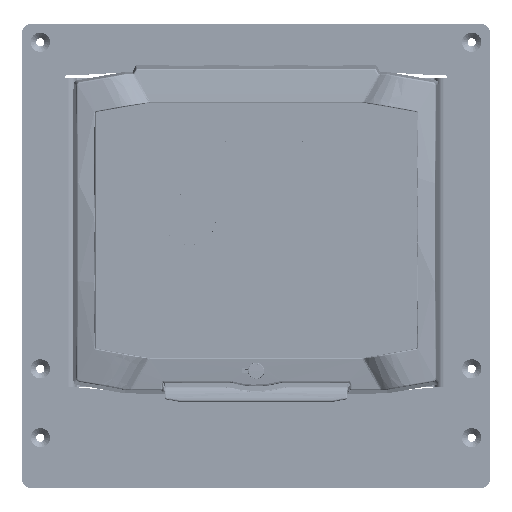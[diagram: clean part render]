
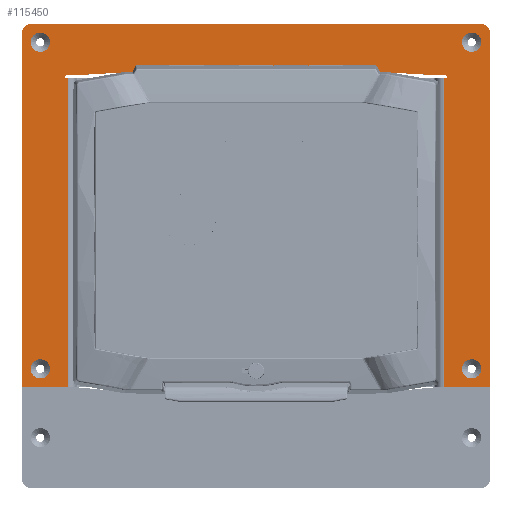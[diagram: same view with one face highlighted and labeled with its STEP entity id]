
A CAD part, top view. The second image highlights one B-rep face of the part: STEP entity #115450.
In plain terms, the highlighted planar face has unit normal (0, 0, 1).
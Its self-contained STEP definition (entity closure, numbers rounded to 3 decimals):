
#7805=FACE_BOUND('',#19703,.T.);
#7806=FACE_BOUND('',#19704,.T.);
#7807=FACE_BOUND('',#19705,.T.);
#7808=FACE_BOUND('',#19706,.T.);
#8354=PLANE('',#122105);
#13313=FACE_OUTER_BOUND('',#19702,.T.);
#19702=EDGE_LOOP('',(#81213,#81214,#81215,#81216,#81217,#81218,#81219,#81220,
#81221,#81222,#81223,#81224,#81225,#81226,#81227,#81228,#81229,#81230,#81231,
#81232));
#19703=EDGE_LOOP('',(#81233,#81234));
#19704=EDGE_LOOP('',(#81235,#81236));
#19705=EDGE_LOOP('',(#81237,#81238));
#19706=EDGE_LOOP('',(#81239,#81240));
#26641=LINE('',#158174,#38916);
#26644=LINE('',#158180,#38919);
#26645=LINE('',#158184,#38920);
#26646=LINE('',#158188,#38921);
#26647=LINE('',#158192,#38922);
#26648=LINE('',#158194,#38923);
#26649=LINE('',#158196,#38924);
#26650=LINE('',#158200,#38925);
#26651=LINE('',#158202,#38926);
#26652=LINE('',#158204,#38927);
#26653=LINE('',#158206,#38928);
#26654=LINE('',#158208,#38929);
#26655=LINE('',#158212,#38930);
#26656=LINE('',#158213,#38931);
#38916=VECTOR('',#130102,10.);
#38919=VECTOR('',#130107,10.);
#38920=VECTOR('',#130110,10.);
#38921=VECTOR('',#130113,10.);
#38922=VECTOR('',#130116,10.);
#38923=VECTOR('',#130117,10.);
#38924=VECTOR('',#130118,10.);
#38925=VECTOR('',#130121,10.);
#38926=VECTOR('',#130122,10.);
#38927=VECTOR('',#130123,10.);
#38928=VECTOR('',#130124,10.);
#38929=VECTOR('',#130125,10.);
#38930=VECTOR('',#130128,10.);
#38931=VECTOR('',#130129,10.);
#51159=CIRCLE('',#122044,5.25);
#51160=CIRCLE('',#122045,5.25);
#51163=CIRCLE('',#122049,5.25);
#51164=CIRCLE('',#122050,5.25);
#51167=CIRCLE('',#122054,5.25);
#51168=CIRCLE('',#122055,5.25);
#51171=CIRCLE('',#122059,5.25);
#51172=CIRCLE('',#122060,5.25);
#51199=CIRCLE('',#122102,0.5);
#51201=CIRCLE('',#122106,5.);
#51202=CIRCLE('',#122107,5.);
#51203=CIRCLE('',#122108,0.5);
#51204=CIRCLE('',#122109,0.75);
#51205=CIRCLE('',#122110,0.75);
#52914=VERTEX_POINT('',#158022);
#52915=VERTEX_POINT('',#158023);
#52918=VERTEX_POINT('',#158032);
#52919=VERTEX_POINT('',#158033);
#52922=VERTEX_POINT('',#158042);
#52923=VERTEX_POINT('',#158043);
#52926=VERTEX_POINT('',#158052);
#52927=VERTEX_POINT('',#158053);
#52968=VERTEX_POINT('',#158164);
#52969=VERTEX_POINT('',#158165);
#52972=VERTEX_POINT('',#158173);
#52974=VERTEX_POINT('',#158179);
#52975=VERTEX_POINT('',#158181);
#52976=VERTEX_POINT('',#158183);
#52977=VERTEX_POINT('',#158185);
#52978=VERTEX_POINT('',#158187);
#52979=VERTEX_POINT('',#158189);
#52980=VERTEX_POINT('',#158191);
#52981=VERTEX_POINT('',#158193);
#52982=VERTEX_POINT('',#158195);
#52983=VERTEX_POINT('',#158197);
#52984=VERTEX_POINT('',#158199);
#52985=VERTEX_POINT('',#158201);
#52986=VERTEX_POINT('',#158203);
#52987=VERTEX_POINT('',#158205);
#52988=VERTEX_POINT('',#158207);
#52989=VERTEX_POINT('',#158209);
#52990=VERTEX_POINT('',#158211);
#64057=EDGE_CURVE('',#52914,#52915,#51159,.T.);
#64058=EDGE_CURVE('',#52915,#52914,#51160,.T.);
#64062=EDGE_CURVE('',#52918,#52919,#51163,.T.);
#64063=EDGE_CURVE('',#52919,#52918,#51164,.T.);
#64067=EDGE_CURVE('',#52922,#52923,#51167,.T.);
#64068=EDGE_CURVE('',#52923,#52922,#51168,.T.);
#64072=EDGE_CURVE('',#52926,#52927,#51171,.T.);
#64073=EDGE_CURVE('',#52927,#52926,#51172,.T.);
#64127=EDGE_CURVE('',#52968,#52969,#51199,.T.);
#64131=EDGE_CURVE('',#52969,#52972,#26641,.T.);
#64134=EDGE_CURVE('',#52974,#52968,#26644,.T.);
#64135=EDGE_CURVE('',#52975,#52974,#51201,.T.);
#64136=EDGE_CURVE('',#52976,#52975,#26645,.T.);
#64137=EDGE_CURVE('',#52977,#52976,#51202,.T.);
#64138=EDGE_CURVE('',#52978,#52977,#26646,.T.);
#64139=EDGE_CURVE('',#52979,#52978,#51203,.T.);
#64140=EDGE_CURVE('',#52980,#52979,#26647,.T.);
#64141=EDGE_CURVE('',#52980,#52981,#26648,.T.);
#64142=EDGE_CURVE('',#52981,#52982,#26649,.T.);
#64143=EDGE_CURVE('',#52982,#52983,#51204,.T.);
#64144=EDGE_CURVE('',#52983,#52984,#26650,.T.);
#64145=EDGE_CURVE('',#52985,#52984,#26651,.T.);
#64146=EDGE_CURVE('',#52986,#52985,#26652,.T.);
#64147=EDGE_CURVE('',#52987,#52986,#26653,.T.);
#64148=EDGE_CURVE('',#52987,#52988,#26654,.T.);
#64149=EDGE_CURVE('',#52988,#52989,#51205,.T.);
#64150=EDGE_CURVE('',#52989,#52990,#26655,.T.);
#64151=EDGE_CURVE('',#52990,#52972,#26656,.T.);
#81213=ORIENTED_EDGE('',*,*,#64127,.F.);
#81214=ORIENTED_EDGE('',*,*,#64134,.F.);
#81215=ORIENTED_EDGE('',*,*,#64135,.F.);
#81216=ORIENTED_EDGE('',*,*,#64136,.F.);
#81217=ORIENTED_EDGE('',*,*,#64137,.F.);
#81218=ORIENTED_EDGE('',*,*,#64138,.F.);
#81219=ORIENTED_EDGE('',*,*,#64139,.F.);
#81220=ORIENTED_EDGE('',*,*,#64140,.F.);
#81221=ORIENTED_EDGE('',*,*,#64141,.T.);
#81222=ORIENTED_EDGE('',*,*,#64142,.T.);
#81223=ORIENTED_EDGE('',*,*,#64143,.T.);
#81224=ORIENTED_EDGE('',*,*,#64144,.T.);
#81225=ORIENTED_EDGE('',*,*,#64145,.F.);
#81226=ORIENTED_EDGE('',*,*,#64146,.F.);
#81227=ORIENTED_EDGE('',*,*,#64147,.F.);
#81228=ORIENTED_EDGE('',*,*,#64148,.T.);
#81229=ORIENTED_EDGE('',*,*,#64149,.T.);
#81230=ORIENTED_EDGE('',*,*,#64150,.T.);
#81231=ORIENTED_EDGE('',*,*,#64151,.T.);
#81232=ORIENTED_EDGE('',*,*,#64131,.F.);
#81233=ORIENTED_EDGE('',*,*,#64057,.T.);
#81234=ORIENTED_EDGE('',*,*,#64058,.T.);
#81235=ORIENTED_EDGE('',*,*,#64062,.T.);
#81236=ORIENTED_EDGE('',*,*,#64063,.T.);
#81237=ORIENTED_EDGE('',*,*,#64067,.T.);
#81238=ORIENTED_EDGE('',*,*,#64068,.T.);
#81239=ORIENTED_EDGE('',*,*,#64072,.T.);
#81240=ORIENTED_EDGE('',*,*,#64073,.T.);
#115450=ADVANCED_FACE('',(#13313,#7805,#7806,#7807,#7808),#8354,.T.);
#122044=AXIS2_PLACEMENT_3D('',#158024,#129948,#129949);
#122045=AXIS2_PLACEMENT_3D('',#158025,#129950,#129951);
#122049=AXIS2_PLACEMENT_3D('',#158034,#129959,#129960);
#122050=AXIS2_PLACEMENT_3D('',#158035,#129961,#129962);
#122054=AXIS2_PLACEMENT_3D('',#158044,#129970,#129971);
#122055=AXIS2_PLACEMENT_3D('',#158045,#129972,#129973);
#122059=AXIS2_PLACEMENT_3D('',#158054,#129981,#129982);
#122060=AXIS2_PLACEMENT_3D('',#158055,#129983,#129984);
#122102=AXIS2_PLACEMENT_3D('',#158166,#130094,#130095);
#122105=AXIS2_PLACEMENT_3D('',#158178,#130105,#130106);
#122106=AXIS2_PLACEMENT_3D('',#158182,#130108,#130109);
#122107=AXIS2_PLACEMENT_3D('',#158186,#130111,#130112);
#122108=AXIS2_PLACEMENT_3D('',#158190,#130114,#130115);
#122109=AXIS2_PLACEMENT_3D('',#158198,#130119,#130120);
#122110=AXIS2_PLACEMENT_3D('',#158210,#130126,#130127);
#129948=DIRECTION('center_axis',(0.,0.,-1.));
#129949=DIRECTION('ref_axis',(1.,0.,0.));
#129950=DIRECTION('center_axis',(0.,0.,-1.));
#129951=DIRECTION('ref_axis',(1.,0.,0.));
#129959=DIRECTION('center_axis',(0.,0.,-1.));
#129960=DIRECTION('ref_axis',(1.,0.,0.));
#129961=DIRECTION('center_axis',(0.,0.,-1.));
#129962=DIRECTION('ref_axis',(1.,0.,0.));
#129970=DIRECTION('center_axis',(0.,0.,-1.));
#129971=DIRECTION('ref_axis',(1.,0.,0.));
#129972=DIRECTION('center_axis',(0.,0.,-1.));
#129973=DIRECTION('ref_axis',(1.,0.,0.));
#129981=DIRECTION('center_axis',(0.,0.,-1.));
#129982=DIRECTION('ref_axis',(1.,0.,0.));
#129983=DIRECTION('center_axis',(0.,0.,-1.));
#129984=DIRECTION('ref_axis',(1.,0.,0.));
#130094=DIRECTION('center_axis',(0.,0.,-1.));
#130095=DIRECTION('ref_axis',(0.707,-0.707,0.));
#130102=DIRECTION('',(-1.,0.,0.));
#130105=DIRECTION('center_axis',(0.,0.,1.));
#130106=DIRECTION('ref_axis',(1.,0.,0.));
#130107=DIRECTION('',(0.,-1.,0.));
#130108=DIRECTION('center_axis',(0.,0.,-1.));
#130109=DIRECTION('ref_axis',(0.707,0.707,0.));
#130110=DIRECTION('',(1.,0.,0.));
#130111=DIRECTION('center_axis',(0.,0.,-1.));
#130112=DIRECTION('ref_axis',(-0.707,0.707,0.));
#130113=DIRECTION('',(0.,1.,0.));
#130114=DIRECTION('center_axis',(0.,0.,-1.));
#130115=DIRECTION('ref_axis',(-0.707,-0.707,0.));
#130116=DIRECTION('',(-1.,0.,0.));
#130117=DIRECTION('',(0.,1.,0.));
#130118=DIRECTION('',(-1.,0.,0.));
#130119=DIRECTION('center_axis',(0.,0.,-1.));
#130120=DIRECTION('ref_axis',(0.,-1.,0.));
#130121=DIRECTION('',(1.,0.,0.));
#130122=DIRECTION('',(-0.998,-0.059,0.));
#130123=DIRECTION('',(-1.,0.,0.));
#130124=DIRECTION('',(-0.998,0.059,0.));
#130125=DIRECTION('',(1.,0.,0.));
#130126=DIRECTION('center_axis',(0.,0.,-1.));
#130127=DIRECTION('ref_axis',(0.,-1.,0.));
#130128=DIRECTION('',(-1.,0.,0.));
#130129=DIRECTION('',(0.,-1.,0.));
#158022=CARTESIAN_POINT('',(122.75,-75.,3.));
#158023=CARTESIAN_POINT('',(112.25,-75.,3.));
#158024=CARTESIAN_POINT('Origin',(117.5,-75.,3.));
#158025=CARTESIAN_POINT('Origin',(117.5,-75.,3.));
#158032=CARTESIAN_POINT('',(-112.25,103.,3.));
#158033=CARTESIAN_POINT('',(-122.75,103.,3.));
#158034=CARTESIAN_POINT('Origin',(-117.5,103.,3.));
#158035=CARTESIAN_POINT('Origin',(-117.5,103.,3.));
#158042=CARTESIAN_POINT('',(-112.25,-75.,3.));
#158043=CARTESIAN_POINT('',(-122.75,-75.,3.));
#158044=CARTESIAN_POINT('Origin',(-117.5,-75.,3.));
#158045=CARTESIAN_POINT('Origin',(-117.5,-75.,3.));
#158052=CARTESIAN_POINT('',(122.75,103.,3.));
#158053=CARTESIAN_POINT('',(112.25,103.,3.));
#158054=CARTESIAN_POINT('Origin',(117.5,103.,3.));
#158055=CARTESIAN_POINT('Origin',(117.5,103.,3.));
#158164=CARTESIAN_POINT('',(127.5,-84.5,3.));
#158165=CARTESIAN_POINT('',(127.,-85.,3.));
#158166=CARTESIAN_POINT('Origin',(127.,-84.5,3.));
#158173=CARTESIAN_POINT('',(102.5,-85.,3.));
#158174=CARTESIAN_POINT('',(127.5,-85.,3.));
#158178=CARTESIAN_POINT('Origin',(0.,37.235,
3.));
#158179=CARTESIAN_POINT('',(127.5,108.,3.));
#158180=CARTESIAN_POINT('',(127.5,113.,3.));
#158181=CARTESIAN_POINT('',(122.5,113.,3.));
#158182=CARTESIAN_POINT('Origin',(122.5,108.,3.));
#158183=CARTESIAN_POINT('',(-122.5,113.,3.));
#158184=CARTESIAN_POINT('',(-127.5,113.,3.));
#158185=CARTESIAN_POINT('',(-127.5,108.,3.));
#158186=CARTESIAN_POINT('Origin',(-122.5,108.,3.));
#158187=CARTESIAN_POINT('',(-127.5,-84.5,3.));
#158188=CARTESIAN_POINT('',(-127.5,-85.,3.));
#158189=CARTESIAN_POINT('',(-127.,-85.,3.));
#158190=CARTESIAN_POINT('Origin',(-127.,-84.5,3.));
#158191=CARTESIAN_POINT('',(-102.5,-85.,3.));
#158192=CARTESIAN_POINT('',(-98.,-85.,3.));
#158193=CARTESIAN_POINT('',(-102.5,83.5,3.));
#158194=CARTESIAN_POINT('',(-102.5,-23.882,3.));
#158195=CARTESIAN_POINT('',(-103.25,83.5,3.));
#158196=CARTESIAN_POINT('',(-49.,83.5,3.));
#158197=CARTESIAN_POINT('',(-103.25,85.,3.));
#158198=CARTESIAN_POINT('Origin',(-103.25,84.25,3.));
#158199=CARTESIAN_POINT('',(-98.,85.,3.));
#158200=CARTESIAN_POINT('',(-51.625,85.,3.));
#158201=CARTESIAN_POINT('',(-55.5,87.5,3.));
#158202=CARTESIAN_POINT('',(-55.5,87.5,3.));
#158203=CARTESIAN_POINT('',(55.5,87.5,3.));
#158204=CARTESIAN_POINT('',(55.5,87.5,3.));
#158205=CARTESIAN_POINT('',(98.,85.,3.));
#158206=CARTESIAN_POINT('',(98.,85.,3.));
#158207=CARTESIAN_POINT('',(103.25,85.,3.));
#158208=CARTESIAN_POINT('',(49.,85.,3.));
#158209=CARTESIAN_POINT('',(103.25,83.5,3.));
#158210=CARTESIAN_POINT('Origin',(103.25,84.25,3.));
#158211=CARTESIAN_POINT('',(102.5,83.5,3.));
#158212=CARTESIAN_POINT('',(51.625,83.5,3.));
#158213=CARTESIAN_POINT('',(102.5,60.368,3.));
